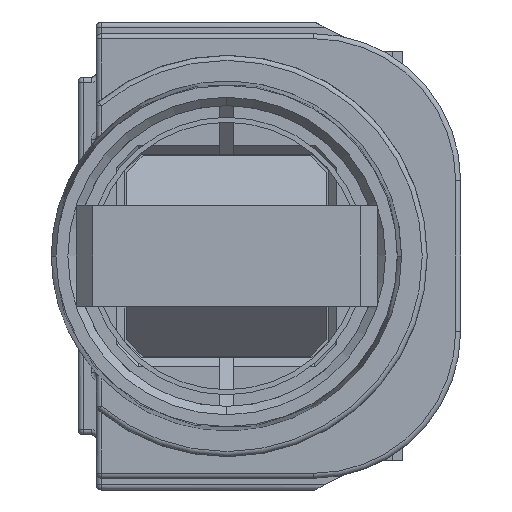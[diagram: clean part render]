
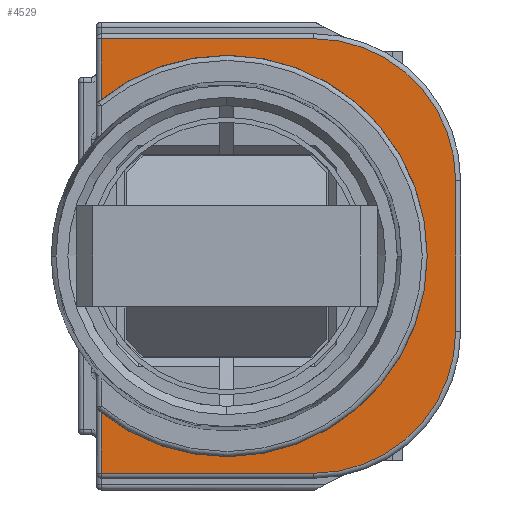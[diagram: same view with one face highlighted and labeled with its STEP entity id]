
A CAD part, front view. The second image highlights one B-rep face of the part: STEP entity #4529.
In plain terms, the highlighted planar face has unit normal (0, -1, 0).
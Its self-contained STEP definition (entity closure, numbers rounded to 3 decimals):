
#92=CARTESIAN_POINT('',(-9.2,-20.4,9.367));
#351=CARTESIAN_POINT('',(-9.2,-20.4,-9.367));
#360=DIRECTION('',(0.,0.,-1.));
#361=VECTOR('',#360,3.633);
#362=CARTESIAN_POINT('',(-9.2,-20.4,13.));
#363=LINE('',#362,#361);
#364=DIRECTION('',(-1.,0.,0.));
#365=VECTOR('',#364,12.7);
#366=CARTESIAN_POINT('',(3.5,-20.4,13.));
#367=LINE('',#366,#365);
#368=CARTESIAN_POINT('',(3.5,-20.4,4.5));
#369=DIRECTION('',(0.,-1.,0.));
#370=DIRECTION('',(1.,0.,0.));
#371=AXIS2_PLACEMENT_3D('',#368,#369,#370);
#373=DIRECTION('',(0.,0.,1.));
#374=VECTOR('',#373,9.);
#375=CARTESIAN_POINT('',(12.,-20.4,-4.5));
#376=LINE('',#375,#374);
#377=CARTESIAN_POINT('',(3.5,-20.4,-4.5));
#378=DIRECTION('',(0.,-1.,0.));
#379=DIRECTION('',(0.,0.,-1.));
#380=AXIS2_PLACEMENT_3D('',#377,#378,#379);
#382=DIRECTION('',(1.,0.,0.));
#383=VECTOR('',#382,12.7);
#384=CARTESIAN_POINT('',(-9.2,-20.4,-13.));
#385=LINE('',#384,#383);
#386=DIRECTION('',(0.,0.,-1.));
#387=VECTOR('',#386,3.633);
#388=CARTESIAN_POINT('',(-9.2,-20.4,-9.367));
#389=LINE('',#388,#387);
#390=CARTESIAN_POINT('',(-1.7,-20.4,0.));
#391=DIRECTION('',(0.,-1.,0.));
#392=DIRECTION('',(-0.625,0.,-0.781));
#393=AXIS2_PLACEMENT_3D('',#390,#391,#392);
#3502=VERTEX_POINT('',#351);
#3503=VERTEX_POINT('',#92);
#3611=CARTESIAN_POINT('',(-9.2,-20.4,13.));
#3612=VERTEX_POINT('',#3611);
#3617=CARTESIAN_POINT('',(3.5,-20.4,13.));
#3618=VERTEX_POINT('',#3617);
#3621=CARTESIAN_POINT('',(12.,-20.4,4.5));
#3622=VERTEX_POINT('',#3621);
#3625=CARTESIAN_POINT('',(12.,-20.4,-4.5));
#3626=VERTEX_POINT('',#3625);
#3629=CARTESIAN_POINT('',(3.5,-20.4,-13.));
#3630=VERTEX_POINT('',#3629);
#3633=CARTESIAN_POINT('',(-9.2,-20.4,-13.));
#3634=VERTEX_POINT('',#3633);
#4509=CARTESIAN_POINT('',(-9.5,-20.4,0.));
#4510=DIRECTION('',(0.,-1.,0.));
#4511=DIRECTION('',(1.,0.,0.));
#4512=AXIS2_PLACEMENT_3D('',#4509,#4510,#4511);
#4513=PLANE('',#4512);
#4514=ORIENTED_EDGE('',*,*,#4074,.F.);
#4516=ORIENTED_EDGE('',*,*,#4515,.F.);
#4518=ORIENTED_EDGE('',*,*,#4517,.F.);
#4520=ORIENTED_EDGE('',*,*,#4519,.F.);
#4522=ORIENTED_EDGE('',*,*,#4521,.F.);
#4524=ORIENTED_EDGE('',*,*,#4523,.F.);
#4525=ORIENTED_EDGE('',*,*,#4500,.F.);
#4526=ORIENTED_EDGE('',*,*,#4087,.T.);
#4527=EDGE_LOOP('',(#4514,#4516,#4518,#4520,#4522,#4524,#4525,#4526));
#4528=FACE_OUTER_BOUND('',#4527,.F.);
#4529=ADVANCED_FACE('',(#4528),#4513,.T.);
#372=CIRCLE('',#371,8.5);
#381=CIRCLE('',#380,8.5);
#394=CIRCLE('',#393,12.);
#4074=EDGE_CURVE('',#3612,#3503,#363,.T.);
#4087=EDGE_CURVE('',#3502,#3503,#394,.T.);
#4500=EDGE_CURVE('',#3502,#3634,#389,.T.);
#4515=EDGE_CURVE('',#3618,#3612,#367,.T.);
#4517=EDGE_CURVE('',#3622,#3618,#372,.T.);
#4519=EDGE_CURVE('',#3626,#3622,#376,.T.);
#4521=EDGE_CURVE('',#3630,#3626,#381,.T.);
#4523=EDGE_CURVE('',#3634,#3630,#385,.T.);
